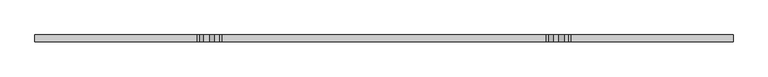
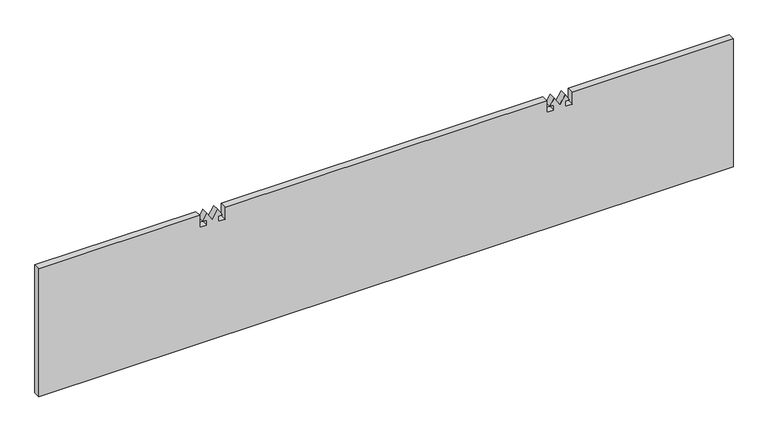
"""IFC4 building model written with IfcOpenShell, lengths in millimetres: proxy geometry, instalación_stratus 11.3dm."""

from ifc_helpers import new_model, si_unit, frame, origin, place, context, project, spatial, polyline, outline, extrude, source, transform, mapped, element, save


def generic_models_b5e7d527(model_context):
    return source(origin(), model_context, "Body", "SweptSolid", [
        extrude(outline(polyline([(-42.5638653, 291.811158), (-42.5638653, 279.553481), (-20.65, 279.553481), (-20.65, 0.0), (-255.6, 0.0), (-255.6, 1206.5), (-20.65, 1206.5), (-20.65, 926.946519), (-42.5638653, 926.946519), (-42.5638653, 914.688842), (-33.2622966, 914.688842), (-33.2622966, 922.0592541), (-20.65, 914.42236), (-36.4174225, 904.875), (-20.65, 895.32764), (-33.2622966, 887.6907459), (-33.2622966, 895.061158), (-42.5638653, 895.061158), (-42.5638653, 882.803481), (-20.65, 882.803481), (-20.65, 323.696519), (-42.5638653, 323.696519), (-42.5638653, 311.438842), (-33.2622966, 311.438842), (-33.2622966, 318.8092541), (-20.65, 311.17236), (-36.4174225, 301.625), (-20.65, 292.07764), (-33.2622966, 284.4407459), (-33.2622966, 291.811158), (-42.5638653, 291.811158)])), frame((0.0, 1290.6310804, 0.0), z_axis=(0.0, 1.0, 0.0), x_axis=(0.0, 0.0, 1.0)), (0.0, 0.0, 1.0), 12.0),
    ])


if __name__ == "__main__":
    model = new_model("IFC4")
    model_context = context("Model", 3, world=origin())
    ifc_project = project(units=[si_unit("LENGTHUNIT", "METRE", prefix="MILLI")], contexts=[model_context])
    site = spatial("IfcSite", under=ifc_project)
    building = spatial("IfcBuilding", under=site)
    placement = place(None, origin())
    generic_models_shape = generic_models_b5e7d527(model_context)
    element("IfcBuildingElementProxy", 1, Name="instalación_stratus 11.3dm", ObjectType="instalación_stratus 11.3dm", at=placement, inside=building, context=model_context, shape_type="MappedRepresentation", body=[
        mapped(generic_models_shape, transform((0.0, 0.0, 0.0), x_axis=(1.0, 0.0, 0.0), y_axis=(0.0, 1.0, 0.0), z_axis=(0.0, 0.0, 1.0))),
    ])
    save(model, "model.ifc")
